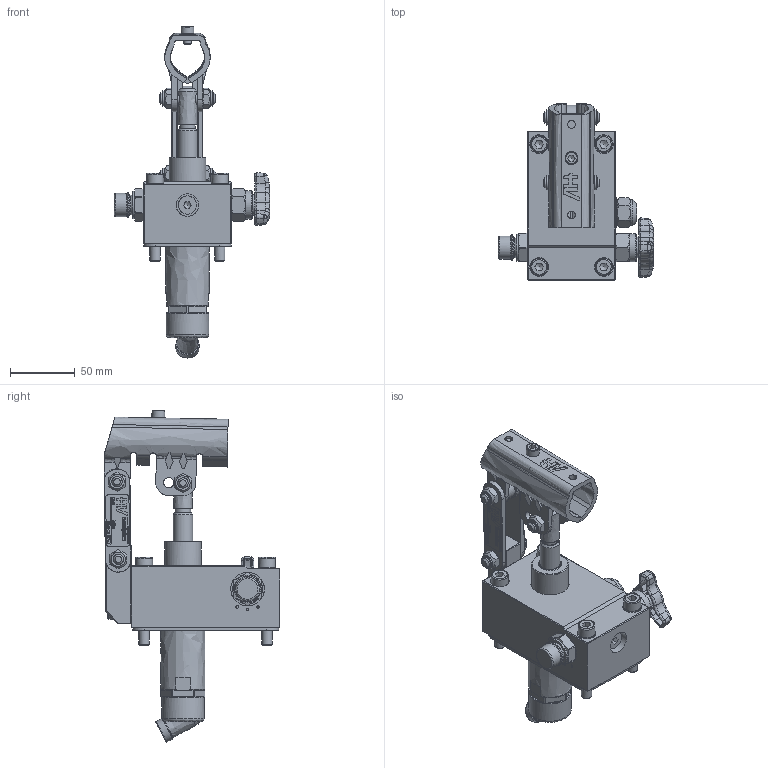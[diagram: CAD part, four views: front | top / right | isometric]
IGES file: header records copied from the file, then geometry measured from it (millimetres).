
Global section: file name: No Iges File Name specified; native system: Autodesk Inventor 2013; preprocessor: AutoDesk Inventor Iges Exporter R2013; author: christian.scardovi; date: 20240228.080201; units: millimetre
Bounding box: 120 x 135.99 x 256.81 mm (x, y, z)
Volume: 535236.7 mm3; surface area: 120714.8 mm2
Topology: 3 solids, 3 shells, 1624 faces, 4055 edges, 2563 vertices
Faces by surface type: bspline 1624
